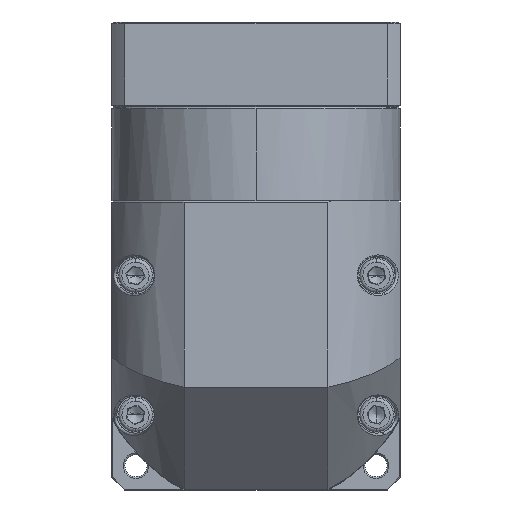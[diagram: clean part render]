
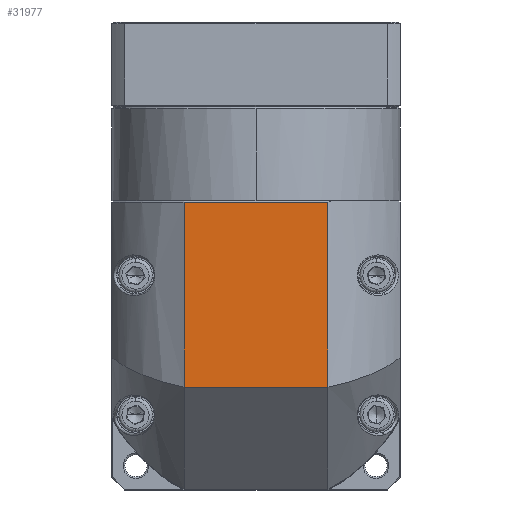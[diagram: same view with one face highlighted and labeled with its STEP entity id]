
A CAD part, top view. The second image highlights one B-rep face of the part: STEP entity #31977.
In plain terms, the highlighted planar face has unit normal (0, 0, 1).
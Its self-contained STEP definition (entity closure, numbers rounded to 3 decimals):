
#5516 = EDGE_CURVE ( 'NONE', #134675, #136898, #99688, .T. ) ;
#12744 = VERTEX_POINT ( 'NONE', #106383 ) ;
#21517 = VERTEX_POINT ( 'NONE', #124237 ) ;
#31977 = ADVANCED_FACE ( 'NONE', ( #126909 ), #125906, .T. ) ;
#37500 = DIRECTION ( 'NONE',  ( -1., 0., 0. ) ) ;
#37961 = CARTESIAN_POINT ( 'NONE',  ( -45.475, 72.246, 50.811 ) ) ;
#38389 = EDGE_CURVE ( 'NONE', #21517, #134675, #57562, .T. ) ;
#38998 = EDGE_LOOP ( 'NONE', ( #52300, #101333, #92622, #130014 ) ) ;
#40275 = DIRECTION ( 'NONE',  ( 0., 0., 1. ) ) ;
#42870 = CARTESIAN_POINT ( 'NONE',  ( -24.262, -27.754, 50.811 ) ) ;
#52300 = ORIENTED_EDGE ( 'NONE', *, *, #54845, .F. ) ;
#54845 = EDGE_CURVE ( 'NONE', #136898, #12744, #72117, .T. ) ;
#57402 = VECTOR ( 'NONE', #118077, 1000. ) ;
#57562 = LINE ( 'NONE', #42870, #57402 ) ;
#61440 = DIRECTION ( 'NONE',  ( 0., 1., 0. ) ) ;
#62186 = AXIS2_PLACEMENT_3D ( 'NONE', #127314, #40275, #61440 ) ;
#64308 = EDGE_CURVE ( 'NONE', #21517, #12744, #75661, .T. ) ;
#70549 = DIRECTION ( 'NONE',  ( -1., 0., 0. ) ) ;
#72117 = LINE ( 'NONE', #136444, #95528 ) ;
#75661 = LINE ( 'NONE', #37961, #110985 ) ;
#92622 = ORIENTED_EDGE ( 'NONE', *, *, #38389, .F. ) ;
#93993 = DIRECTION ( 'NONE',  ( 0., 1., 0. ) ) ;
#95528 = VECTOR ( 'NONE', #93993, 1000. ) ;
#99688 = LINE ( 'NONE', #135489, #109781 ) ;
#101333 = ORIENTED_EDGE ( 'NONE', *, *, #5516, .F. ) ;
#101890 = CARTESIAN_POINT ( 'NONE',  ( -66.688, 17.746, 50.811 ) ) ;
#106187 = CARTESIAN_POINT ( 'NONE',  ( -24.262, 17.746, 50.811 ) ) ;
#106383 = CARTESIAN_POINT ( 'NONE',  ( -66.688, 72.246, 50.811 ) ) ;
#109781 = VECTOR ( 'NONE', #70549, 1000. ) ;
#110985 = VECTOR ( 'NONE', #37500, 1000. ) ;
#118077 = DIRECTION ( 'NONE',  ( 0., -1., 0. ) ) ;
#124237 = CARTESIAN_POINT ( 'NONE',  ( -24.262, 72.246, 50.811 ) ) ;
#125906 = PLANE ( 'NONE',  #62186 ) ;
#126909 = FACE_OUTER_BOUND ( 'NONE', #38998, .T. ) ;
#127314 = CARTESIAN_POINT ( 'NONE',  ( -45.475, 30.246, 50.811 ) ) ;
#130014 = ORIENTED_EDGE ( 'NONE', *, *, #64308, .T. ) ;
#134675 = VERTEX_POINT ( 'NONE', #106187 ) ;
#135489 = CARTESIAN_POINT ( 'NONE',  ( -45.475, 17.746, 50.811 ) ) ;
#136444 = CARTESIAN_POINT ( 'NONE',  ( -66.688, -27.754, 50.811 ) ) ;
#136898 = VERTEX_POINT ( 'NONE', #101890 ) ;
